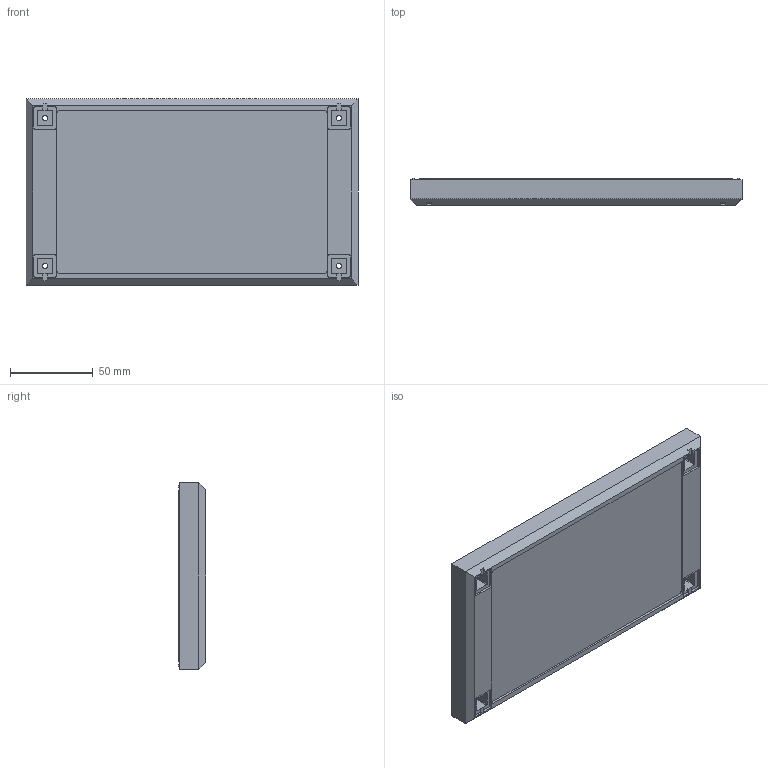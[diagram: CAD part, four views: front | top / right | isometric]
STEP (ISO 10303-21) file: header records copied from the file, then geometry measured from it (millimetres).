
FILE_DESCRIPTION (( 'STEP AP214' ), '1' );
FILE_NAME ('Tapa PP63B.STEP', '2017-01-23T03:55:21', ( 'aaa' ), ( '' ), 'SwSTEP 2.0', 'SolidWorks 2013', '' );
FILE_SCHEMA (( 'AUTOMOTIVE_DESIGN' ));
Length unit declared in the file: millimetre
Products named in the file (1): Tapa PP63B
Bounding box: 200 x 16.3 x 112.2 mm (x, y, z)
Volume: 74475.9 mm3; surface area: 66270.7 mm2
Topology: 6 solids, 6 shells, 210 faces, 540 edges, 356 vertices
Faces by surface type: plane 130, cylinder 72, cone 8
Entity records: 6495 total; most frequent: DIRECTION 1114, CARTESIAN_POINT 1107, ORIENTED_EDGE 1080, EDGE_CURVE 540, LINE 388, VECTOR 388, AXIS2_PLACEMENT_3D 363, VERTEX_POINT 356
